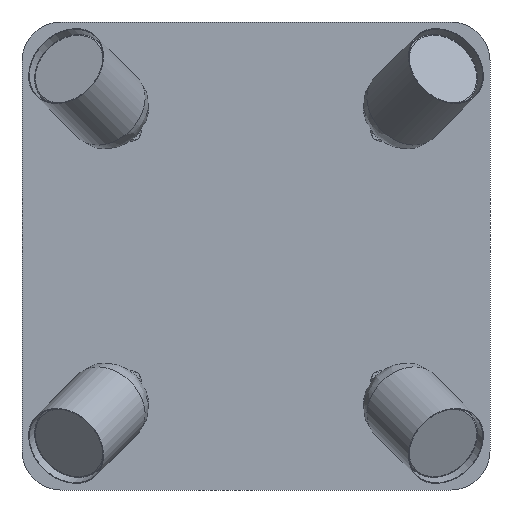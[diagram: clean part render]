
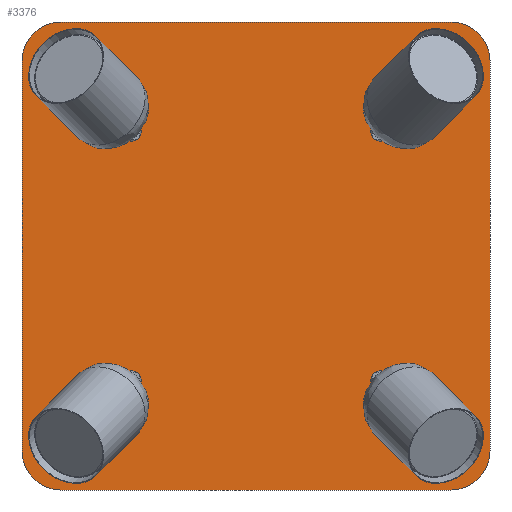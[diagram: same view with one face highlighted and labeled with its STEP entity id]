
A CAD part, front view. The second image highlights one B-rep face of the part: STEP entity #3376.
In plain terms, the highlighted planar face has unit normal (0, -1, 0).
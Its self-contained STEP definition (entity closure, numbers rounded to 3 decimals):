
#454=FACE_OUTER_BOUND('',#682,.T.);
#682=EDGE_LOOP('',(#2971,#2972,#2973,#2974,#2975,#2976,#2977,#2978));
#899=LINE('',#6683,#1137);
#904=LINE('',#6697,#1142);
#908=LINE('',#6709,#1146);
#912=LINE('',#6721,#1150);
#1137=VECTOR('',#4779,10.);
#1142=VECTOR('',#4792,10.);
#1146=VECTOR('',#4804,10.);
#1150=VECTOR('',#4816,10.);
#1331=CIRCLE('',#3837,25.);
#1333=CIRCLE('',#3841,25.);
#1335=CIRCLE('',#3845,25.);
#1337=CIRCLE('',#3849,25.);
#1627=VERTEX_POINT('',#6681);
#1628=VERTEX_POINT('',#6682);
#1631=VERTEX_POINT('',#6690);
#1633=VERTEX_POINT('',#6696);
#1635=VERTEX_POINT('',#6702);
#1637=VERTEX_POINT('',#6708);
#1639=VERTEX_POINT('',#6714);
#1641=VERTEX_POINT('',#6720);
#2067=EDGE_CURVE('',#1627,#1628,#899,.T.);
#2071=EDGE_CURVE('',#1631,#1628,#1331,.T.);
#2074=EDGE_CURVE('',#1631,#1633,#904,.T.);
#2077=EDGE_CURVE('',#1635,#1633,#1333,.T.);
#2080=EDGE_CURVE('',#1635,#1637,#908,.T.);
#2083=EDGE_CURVE('',#1639,#1637,#1335,.T.);
#2086=EDGE_CURVE('',#1639,#1641,#912,.T.);
#2089=EDGE_CURVE('',#1627,#1641,#1337,.T.);
#2971=ORIENTED_EDGE('',*,*,#2089,.F.);
#2972=ORIENTED_EDGE('',*,*,#2067,.T.);
#2973=ORIENTED_EDGE('',*,*,#2071,.F.);
#2974=ORIENTED_EDGE('',*,*,#2074,.T.);
#2975=ORIENTED_EDGE('',*,*,#2077,.F.);
#2976=ORIENTED_EDGE('',*,*,#2080,.T.);
#2977=ORIENTED_EDGE('',*,*,#2083,.F.);
#2978=ORIENTED_EDGE('',*,*,#2086,.T.);
#3160=PLANE('',#3852);
#3376=ADVANCED_FACE('',(#454),#3160,.F.);
#3837=AXIS2_PLACEMENT_3D('',#6691,#4785,#4786);
#3841=AXIS2_PLACEMENT_3D('',#6703,#4797,#4798);
#3845=AXIS2_PLACEMENT_3D('',#6715,#4809,#4810);
#3849=AXIS2_PLACEMENT_3D('',#6726,#4821,#4822);
#3852=AXIS2_PLACEMENT_3D('',#6729,#4827,#4828);
#4779=DIRECTION('',(1.,0.,0.));
#4785=DIRECTION('center_axis',(0.,1.,0.));
#4786=DIRECTION('ref_axis',(1.,0.,0.));
#4792=DIRECTION('',(0.,0.,1.));
#4797=DIRECTION('center_axis',(0.,1.,0.));
#4798=DIRECTION('ref_axis',(0.,0.,1.));
#4804=DIRECTION('',(-1.,0.,0.));
#4809=DIRECTION('center_axis',(0.,1.,0.));
#4810=DIRECTION('ref_axis',(-1.,0.,0.));
#4816=DIRECTION('',(0.,0.,-1.));
#4821=DIRECTION('center_axis',(0.,1.,0.));
#4822=DIRECTION('ref_axis',(0.,0.,-1.));
#4827=DIRECTION('center_axis',(0.,1.,0.));
#4828=DIRECTION('ref_axis',(1.,0.,0.));
#6681=CARTESIAN_POINT('',(-125.,0.,-150.));
#6682=CARTESIAN_POINT('',(125.,0.,-150.));
#6683=CARTESIAN_POINT('',(-125.,0.,-150.));
#6690=CARTESIAN_POINT('',(150.,0.,-125.));
#6691=CARTESIAN_POINT('Origin',(125.,0.,-125.));
#6696=CARTESIAN_POINT('',(150.,0.,125.));
#6697=CARTESIAN_POINT('',(150.,0.,-125.));
#6702=CARTESIAN_POINT('',(125.,0.,150.));
#6703=CARTESIAN_POINT('Origin',(125.,0.,125.));
#6708=CARTESIAN_POINT('',(-125.,0.,150.));
#6709=CARTESIAN_POINT('',(125.,0.,150.));
#6714=CARTESIAN_POINT('',(-150.,0.,125.));
#6715=CARTESIAN_POINT('Origin',(-125.,0.,125.));
#6720=CARTESIAN_POINT('',(-150.,0.,-125.));
#6721=CARTESIAN_POINT('',(-150.,0.,125.));
#6726=CARTESIAN_POINT('Origin',(-125.,0.,-125.));
#6729=CARTESIAN_POINT('Origin',(0.,0.,0.));
